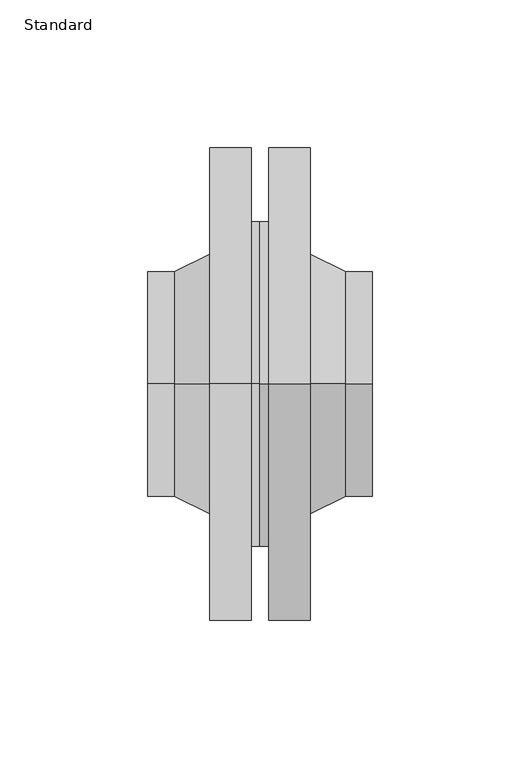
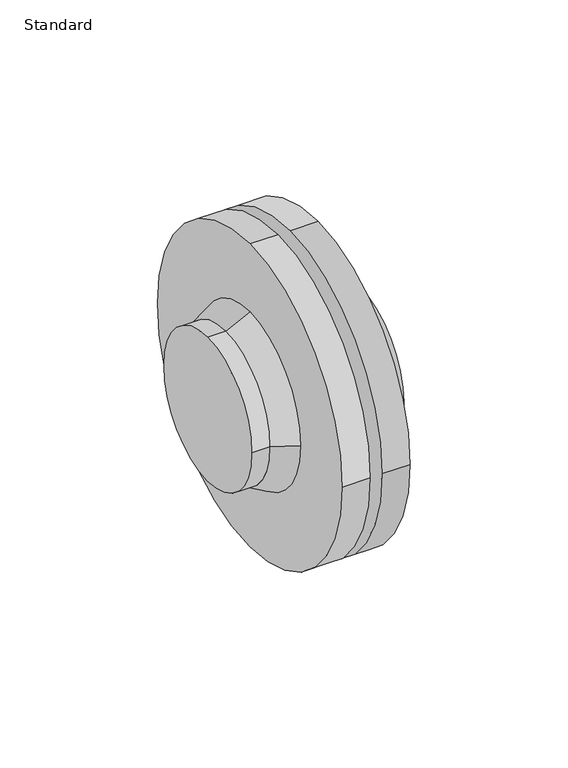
"""IFC4 building model written with IfcOpenShell, lengths in millimetres: pipe fitting geometry, Brides Double PN6 Collerette : Standard."""

from ifc_helpers import new_model, si_unit, point, frame, origin, origin_2d, place, context, project, spatial, polyline, circle_curve, trimmed, segment, composite_curve, outline, extrude, source, transform, mapped, element, save
from ifc_brep_helpers import plane_surface, revolved_surface, advanced_brep


def standard_dc6bdc32(model_context):
    return source(origin(), model_context, "Body", "SolidModel", [
        extrude(outline(composite_curve([segment(trimmed(circle_curve(origin_2d(), 38.05), [point((0.0, 38.05))], [point((38.05, 0.0))], False, "CARTESIAN"), True, "CONTINUOUS"), segment(trimmed(circle_curve(origin_2d(), 38.05), [point((38.05, 0.0))], [point((0.0, -38.05))], False, "CARTESIAN"), True, "CONTINUOUS"), segment(trimmed(circle_curve(origin_2d(), 38.05), [point((0.0, -38.05))], [point((-38.05, 0.0))], False, "CARTESIAN"), True, "CONTINUOUS"), segment(trimmed(circle_curve(origin_2d(), 38.05), [point((-38.05, 0.0))], [point((0.0, 38.05))], False, "CARTESIAN"), True, "CONTINUOUS")], self_intersect=False)), frame((67.0, 0.0, 0.0), z_axis=(1.0, 0.0, 0.0), x_axis=(0.0, 1.0, 0.0)), (0.0, 0.0, 1.0), 9.0),
        advanced_brep(
        [(67.0, 0.0, 38.05), (67.0, -38.05, 0.0), (67.0, 0.0, -38.05), (67.0, 38.05, 0.0), (55.0, 0.0, 44.0), (55.0, 44.0, 0.0), (55.0, 0.0, -44.0), (55.0, -44.0, 0.0)],
        [
            (0, 1, circle_curve(frame((67.0, 0.0, 0.0), z_axis=(1.0, 0.0, 0.0), x_axis=(0.0, 0.0, 1.0)), 38.05)),
            (1, 2, circle_curve(frame((67.0, 0.0, 0.0), z_axis=(1.0, 0.0, 0.0), x_axis=(0.0, -1.0, 0.0)), 38.05)),
            (2, 3, circle_curve(frame((67.0, 0.0, 0.0), z_axis=(1.0, 0.0, 0.0), x_axis=(0.0, 0.0, -1.0)), 38.05)),
            (3, 0, circle_curve(frame((67.0, 0.0, 0.0), z_axis=(1.0, 0.0, 0.0), x_axis=(0.0, 1.0, 0.0)), 38.05)),
            (4, 5, circle_curve(frame((55.0, 0.0, 0.0), z_axis=(-1.0, 0.0, 0.0), x_axis=(0.0, 1.0, 0.0)), 44.0)),
            (5, 6, circle_curve(frame((55.0, 0.0, 0.0), z_axis=(-1.0, 0.0, 0.0), x_axis=(0.0, 0.0, -1.0)), 44.0)),
            (6, 7, circle_curve(frame((55.0, 0.0, 0.0), z_axis=(-1.0, 0.0, 0.0), x_axis=(0.0, -1.0, 0.0)), 44.0)),
            (7, 4, circle_curve(frame((55.0, 0.0, 0.0), z_axis=(-1.0, 0.0, 0.0), x_axis=(0.0, 0.0, 1.0)), 44.0)),
            (7, 1),
            (0, 4),
            (6, 2),
            (5, 3),
        ],
        [
            plane_surface(frame((67.0, 0.0, 0.0), z_axis=(1.0, 0.0, 0.0), x_axis=(0.0, -1.0, 0.0))),
            plane_surface(frame((55.0, 0.0, 0.0), z_axis=(-1.0, 0.0, 0.0), x_axis=(0.0, -1.0, 0.0))),
            revolved_surface(polyline([(67.0, 0.0, 38.05000000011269), (55.0, 0.0, 44.0)]), (143.7394958, 0.0, 0.0), (-1.0, 0.0, 0.0)),
            revolved_surface(polyline([(67.0, -38.05000000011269, 0.0), (55.0, -44.0, 0.0)]), (143.7394958, 0.0, 0.0), (-1.0, 0.0, 0.0)),
            revolved_surface(polyline([(67.0, 0.0, -38.05000000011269), (55.0, 0.0, -44.0)]), (143.7394958, 0.0, 0.0), (-1.0, 0.0, 0.0)),
            revolved_surface(polyline([(67.0, 38.05000000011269, 0.0), (55.0, 44.0, 0.0)]), (143.7394958, 0.0, 0.0), (-1.0, 0.0, 0.0)),
        ],
        [
            (0, [[1, 2, 3, 4]]),
            (1, [[5, 6, 7, 8]]),
            (2, [[-8, 9, -1, 10]]),
            (3, [[-7, 11, -2, -9]]),
            (4, [[-6, 12, -3, -11]]),
            (5, [[-5, -10, -4, -12]]),
        ],
    ),
        extrude(outline(composite_curve([segment(trimmed(circle_curve(origin_2d(), 80.0), [point((0.0, 80.0))], [point((80.0, 0.0))], False, "CARTESIAN"), True, "CONTINUOUS"), segment(trimmed(circle_curve(origin_2d(), 80.0), [point((80.0, 0.0))], [point((0.0, -80.0))], False, "CARTESIAN"), True, "CONTINUOUS"), segment(trimmed(circle_curve(origin_2d(), 80.0), [point((0.0, -80.0))], [point((-80.0, 0.0))], False, "CARTESIAN"), True, "CONTINUOUS"), segment(trimmed(circle_curve(origin_2d(), 80.0), [point((-80.0, 0.0))], [point((0.0, 80.0))], False, "CARTESIAN"), True, "CONTINUOUS")], self_intersect=False)), frame((41.0, 0.0, 0.0), z_axis=(1.0, 0.0, 0.0), x_axis=(0.0, 1.0, 0.0)), (0.0, 0.0, 1.0), 14.0),
        extrude(outline(composite_curve([segment(trimmed(circle_curve(origin_2d(), 55.0), [point((0.0, 55.0))], [point((55.0, 0.0))], False, "CARTESIAN"), True, "CONTINUOUS"), segment(trimmed(circle_curve(origin_2d(), 55.0), [point((55.0, 0.0))], [point((0.0, -55.0))], False, "CARTESIAN"), True, "CONTINUOUS"), segment(trimmed(circle_curve(origin_2d(), 55.0), [point((0.0, -55.0))], [point((-55.0, 0.0))], False, "CARTESIAN"), True, "CONTINUOUS"), segment(trimmed(circle_curve(origin_2d(), 55.0), [point((-55.0, 0.0))], [point((0.0, 55.0))], False, "CARTESIAN"), True, "CONTINUOUS")], self_intersect=False)), frame((38.0, 0.0, 0.0), z_axis=(1.0, 0.0, 0.0), x_axis=(0.0, 1.0, 0.0)), (0.0, 0.0, 1.0), 3.0),
        extrude(outline(composite_curve([segment(trimmed(circle_curve(origin_2d(), 38.05), [point((0.0, 38.05))], [point((38.05, 0.0))], False, "CARTESIAN"), True, "CONTINUOUS"), segment(trimmed(circle_curve(origin_2d(), 38.05), [point((38.05, 0.0))], [point((0.0, -38.05))], False, "CARTESIAN"), True, "CONTINUOUS"), segment(trimmed(circle_curve(origin_2d(), 38.05), [point((0.0, -38.05))], [point((-38.05, 0.0))], False, "CARTESIAN"), True, "CONTINUOUS"), segment(trimmed(circle_curve(origin_2d(), 38.05), [point((-38.05, 0.0))], [point((0.0, 38.05))], False, "CARTESIAN"), True, "CONTINUOUS")], self_intersect=False)), frame((0.0, 0.0, 0.0), z_axis=(1.0, 0.0, 0.0), x_axis=(0.0, 1.0, 0.0)), (0.0, 0.0, 1.0), 9.0),
        advanced_brep(
        [(9.0, 0.0, 38.05), (9.0, 38.05, 0.0), (9.0, 0.0, -38.05), (9.0, -38.05, 0.0), (21.0, 0.0, 44.0), (21.0, -44.0, 0.0), (21.0, 0.0, -44.0), (21.0, 44.0, 0.0)],
        [
            (0, 1, circle_curve(frame((9.0, 0.0, 0.0), z_axis=(-1.0, 0.0, 0.0), x_axis=(0.0, 0.0, 1.0)), 38.05)),
            (1, 2, circle_curve(frame((9.0, 0.0, 0.0), z_axis=(-1.0, 0.0, 0.0), x_axis=(0.0, 1.0, 0.0)), 38.05)),
            (2, 3, circle_curve(frame((9.0, 0.0, 0.0), z_axis=(-1.0, 0.0, 0.0), x_axis=(0.0, 0.0, -1.0)), 38.05)),
            (3, 0, circle_curve(frame((9.0, 0.0, 0.0), z_axis=(-1.0, 0.0, 0.0), x_axis=(0.0, -1.0, 0.0)), 38.05)),
            (4, 5, circle_curve(frame((21.0, 0.0, 0.0), z_axis=(1.0, 0.0, 0.0), x_axis=(0.0, -1.0, 0.0)), 44.0)),
            (5, 6, circle_curve(frame((21.0, 0.0, 0.0), z_axis=(1.0, 0.0, 0.0), x_axis=(0.0, 0.0, -1.0)), 44.0)),
            (6, 7, circle_curve(frame((21.0, 0.0, 0.0), z_axis=(1.0, 0.0, 0.0), x_axis=(0.0, 1.0, 0.0)), 44.0)),
            (7, 4, circle_curve(frame((21.0, 0.0, 0.0), z_axis=(1.0, 0.0, 0.0), x_axis=(0.0, 0.0, 1.0)), 44.0)),
            (7, 1),
            (0, 4),
            (6, 2),
            (5, 3),
        ],
        [
            plane_surface(frame((9.0, 0.0, 0.0), z_axis=(-1.0, 0.0, 0.0), x_axis=(0.0, 1.0, 0.0))),
            plane_surface(frame((21.0, 0.0, 0.0), z_axis=(1.0, 0.0, 0.0), x_axis=(0.0, 1.0, 0.0))),
            revolved_surface(polyline([(9.0, 0.0, 38.05000000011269), (21.0, 0.0, 44.0)]), (-67.7394958, 0.0, 0.0), (1.0, 0.0, 0.0)),
            revolved_surface(polyline([(9.0, 38.05000000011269, 0.0), (21.0, 44.0, 0.0)]), (-67.7394958, 0.0, 0.0), (1.0, 0.0, 0.0)),
            revolved_surface(polyline([(9.0, 0.0, -38.05000000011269), (21.0, 0.0, -44.0)]), (-67.7394958, 0.0, 0.0), (1.0, 0.0, 0.0)),
            revolved_surface(polyline([(9.0, -38.05000000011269, 0.0), (21.0, -44.0, 0.0)]), (-67.7394958, 0.0, 0.0), (1.0, 0.0, 0.0)),
        ],
        [
            (0, [[1, 2, 3, 4]]),
            (1, [[5, 6, 7, 8]]),
            (2, [[-8, 9, -1, 10]]),
            (3, [[-7, 11, -2, -9]]),
            (4, [[-6, 12, -3, -11]]),
            (5, [[-5, -10, -4, -12]]),
        ],
    ),
        extrude(outline(composite_curve([segment(trimmed(circle_curve(origin_2d(), 80.0), [point((0.0, 80.0))], [point((80.0, 0.0))], False, "CARTESIAN"), True, "CONTINUOUS"), segment(trimmed(circle_curve(origin_2d(), 80.0), [point((80.0, 0.0))], [point((0.0, -80.0))], False, "CARTESIAN"), True, "CONTINUOUS"), segment(trimmed(circle_curve(origin_2d(), 80.0), [point((0.0, -80.0))], [point((-80.0, 0.0))], False, "CARTESIAN"), True, "CONTINUOUS"), segment(trimmed(circle_curve(origin_2d(), 80.0), [point((-80.0, 0.0))], [point((0.0, 80.0))], False, "CARTESIAN"), True, "CONTINUOUS")], self_intersect=False)), frame((21.0, 0.0, 0.0), z_axis=(1.0, 0.0, 0.0), x_axis=(0.0, 1.0, 0.0)), (0.0, 0.0, 1.0), 14.0),
        extrude(outline(composite_curve([segment(trimmed(circle_curve(origin_2d(), 55.0), [point((0.0, 55.0))], [point((55.0, 0.0))], False, "CARTESIAN"), True, "CONTINUOUS"), segment(trimmed(circle_curve(origin_2d(), 55.0), [point((55.0, 0.0))], [point((0.0, -55.0))], False, "CARTESIAN"), True, "CONTINUOUS"), segment(trimmed(circle_curve(origin_2d(), 55.0), [point((0.0, -55.0))], [point((-55.0, 0.0))], False, "CARTESIAN"), True, "CONTINUOUS"), segment(trimmed(circle_curve(origin_2d(), 55.0), [point((-55.0, 0.0))], [point((0.0, 55.0))], False, "CARTESIAN"), True, "CONTINUOUS")], self_intersect=False)), frame((35.0, 0.0, 0.0), z_axis=(1.0, 0.0, 0.0), x_axis=(0.0, 1.0, 0.0)), (0.0, 0.0, 1.0), 3.0),
    ])


if __name__ == "__main__":
    model = new_model("IFC4")
    model_context = context("Model", 3, world=origin())
    ifc_project = project(units=[si_unit("LENGTHUNIT", "METRE", prefix="MILLI")], contexts=[model_context])
    site = spatial("IfcSite", under=ifc_project)
    building = spatial("IfcBuilding", under=site)
    placement = place(None, origin())
    standard_shape = standard_dc6bdc32(model_context)
    element("IfcPipeFitting", 1, ObjectType="Brides Double PN6 Collerette : Standard", at=placement, inside=building, context=model_context, shape_type="MappedRepresentation", body=[
        mapped(standard_shape, transform((0.0, 0.0, 0.0), x_axis=(1.0, 0.0, 0.0), y_axis=(0.0, 1.0, 0.0), z_axis=(0.0, 0.0, 1.0))),
    ])
    save(model, "model.ifc")
